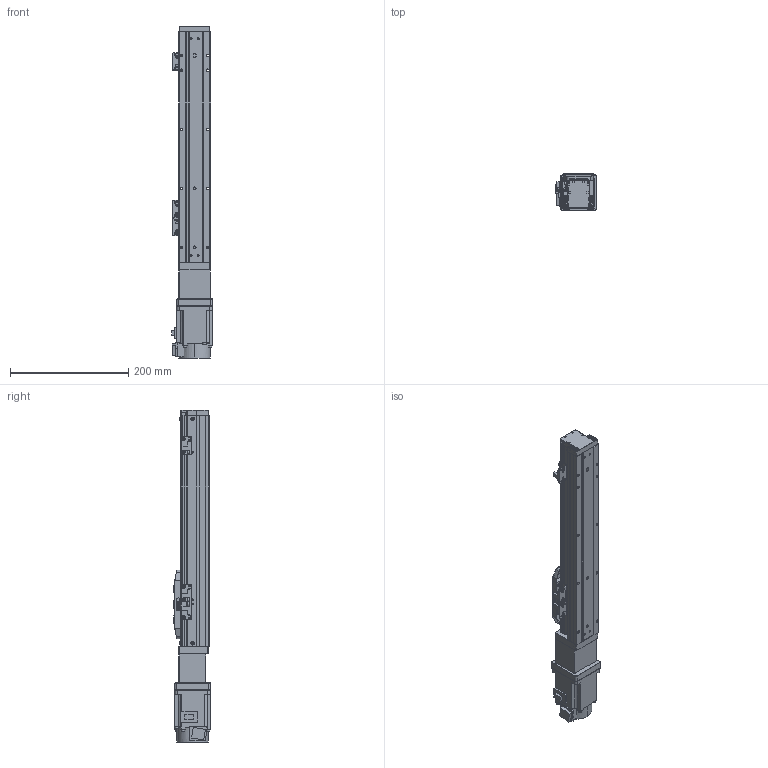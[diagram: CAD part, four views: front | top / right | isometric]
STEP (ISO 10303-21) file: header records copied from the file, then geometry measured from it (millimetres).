
FILE_DESCRIPTION (( 'STEP AP203' ), '1' );
FILE_NAME ('GTH5-250-BC-M20-C4.step', '2022-12-16T03:16:14', ( '微软用户' ), ( '微软中国' ), 'SwSTEP 2.0', 'SolidWorks 2020', '' );
FILE_SCHEMA (( 'CONFIG_CONTROL_DESIGN' ));
Length unit declared in the file: millimetre
Products named in the file (20): GTH50-022-1; GTH50-001_250; GTH50-023; CTHA60-027; GBT 70.1-M4×16; GBT 70.1-M3℅6; CTHA60-013; GTH50-003; GBT96.1-2002 3×0.8; GTH50-006; CTHA60-006-4_CTHA60-006-4; GTH50-013; GTH50-024; GTH50-004; 三菱伺服电机[HG-KN23J-S100]; GBT 70.1-M2.5×6; GBT 70.3-M3℅6; GTH5-250-BC-M20-C4; GTH50-028; BTH-M3X5X6
Assembly tree (60 placements, depth 2):
  GTH5-250-BC-M20-C4
    GTH50-006
    GTH50-004
    GBT 70.3-M3℅6  x6
    BTH-M3X5X6  x8
    GTH50-001_250
    GBT 70.1-M4×16  x8
    GTH50-003
    GTH50-013
    GTH50-023  x3
    GBT 70.1-M3℅6  x12
    GBT96.1-2002 3×0.8  x6
    GTH50-024  x3
    GBT 70.1-M2.5×6  x2
    GTH50-028  x2
    GTH50-022-1
    CTHA60-027
    CTHA60-013
    CTHA60-006-4_CTHA60-006-4
    三菱伺服电机[HG-KN23J-S100]
Bounding box: 68.84 x 62.13 x 562.2 mm (x, y, z)
Volume: 1322414 mm3; surface area: 225898.3 mm2
Topology: 62 solids, 62 shells, 2076 faces, 4816 edges, 2960 vertices
Faces by surface type: plane 1091, cylinder 588, cone 235, torus 154, sphere 8
Entity records: 37094 total; most frequent: CARTESIAN_POINT 7784, DIRECTION 5476, ORIENTED_EDGE 5318, EDGE_CURVE 2659, AXIS2_PLACEMENT_3D 1892, VERTEX_POINT 1700, LINE 1692, VECTOR 1692
